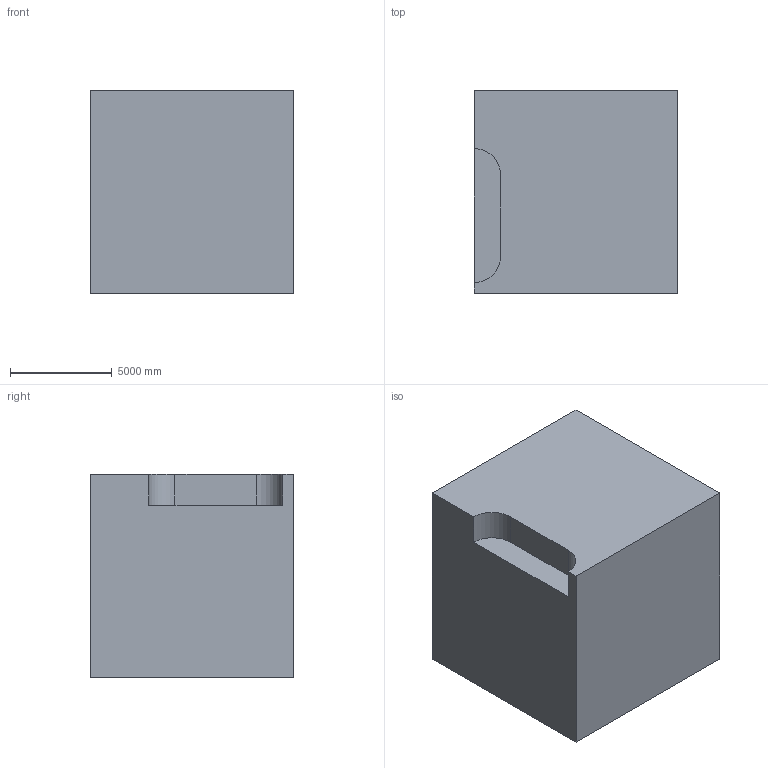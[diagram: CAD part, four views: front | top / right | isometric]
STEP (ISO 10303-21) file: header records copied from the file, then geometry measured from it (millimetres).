
FILE_DESCRIPTION (( 'STEP AP203' ), '1' );
FILE_NAME ('57.STEP', '2022-07-28T13:30:40', ( 'user' ), ( '' ), 'SwSTEP 2.0', 'SolidWorks 2021', '' );
FILE_SCHEMA (( 'CONFIG_CONTROL_DESIGN' ));
Length unit declared in the file: centimetre
Products named in the file (1): 57
Bounding box: 10000 x 10000 x 10000 mm (x, y, z)
Volume: 799533713955.3 mm3; surface area: 760711457.1 mm2
Topology: 1 solids, 1 shells, 15 faces, 36 edges, 24 vertices
Faces by surface type: plane 13, cylinder 2
Entity records: 511 total; most frequent: CARTESIAN_POINT 76, DIRECTION 72, ORIENTED_EDGE 72, EDGE_CURVE 36, LINE 32, VECTOR 32, VERTEX_POINT 24, AXIS2_PLACEMENT_3D 20
